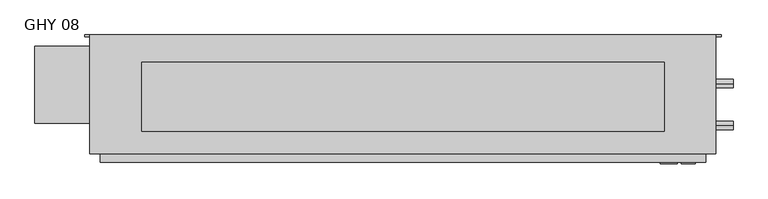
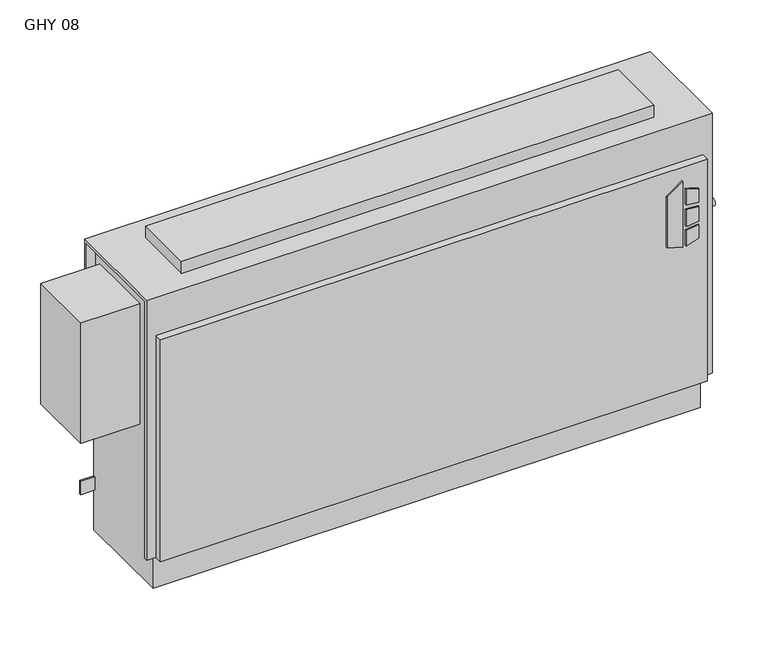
"""IFC4 building model written with IfcOpenShell, lengths in millimetres: proxy geometry, Vertical_Fan_Coil_Unit_-_GHY_-_IEC_-_2-Pipe_TS-FR_RH_2022 : GHY 08."""

from ifc_helpers import new_model, si_unit, point, frame, frame_2d, origin, place, context, project, spatial, polyline, circle_curve, trimmed, segment, composite_curve, outline, extrude, source, transform, mapped, element, save
from ifc_brep_helpers import plane_surface, revolved_surface, advanced_brep


def ghy_08_5180b133(model_context):
    return source(origin(), model_context, "Body", "SolidModel", [
        extrude(outline(polyline([(391.6086829, 627.1368862), (381.6606126, 659.3102728), (523.831537, 659.3102728), (500.8095309, 627.1368862), (391.6086829, 627.1368862)])), frame((0.0, 6.35, 0.0), z_axis=(0.0, 1.0, 0.0), x_axis=(0.0, 0.0, 1.0)), (0.0, 0.0, 1.0), 3.175),
        extrude(outline(polyline([(470.6079683, 666.0686058), (467.4055757, 692.15), (496.6344168, 692.15), (504.6988318, 666.0686058), (470.6079683, 666.0686058)])), frame((0.0, 6.35, 0.0), z_axis=(0.0, 1.0, 0.0), x_axis=(0.0, 0.0, 1.0)), (0.0, 0.0, 1.0), 3.175),
        extrude(outline(polyline([(418.7444414, 692.15), (415.0789404, 666.0686058), (381.6606126, 666.0686058), (390.2948498, 692.15), (418.7444414, 692.15)])), frame((0.0, 6.35, 0.0), z_axis=(0.0, 1.0, 0.0), x_axis=(0.0, 0.0, 1.0)), (0.0, 0.0, 1.0), 3.175),
        extrude(outline(polyline([(458.0596028, 692.15), (460.3414292, 666.0686058), (424.4038806, 666.0686058), (427.1451456, 692.15), (458.0596028, 692.15)])), frame((0.0, 6.35, 0.0), z_axis=(0.0, 1.0, 0.0), x_axis=(0.0, 0.0, 1.0)), (0.0, 0.0, 1.0), 3.175),
        extrude(outline(polyline([(635.0, 193.675), (635.0, 66.675), (-330.2, 66.675), (-330.2, 193.675), (635.0, 193.675)])), frame((0.0, 0.0, 635.0), z_axis=(0.0, 0.0, 1.0), x_axis=(1.0, 0.0, 0.0)), (0.0, 0.0, 1.0), 25.4),
        extrude(outline(composite_curve([segment(trimmed(circle_curve(frame_2d((77.597, 401.574)), 7.9375), [point((77.597, 393.6365))], [point((77.597, 409.5115))], False, "CARTESIAN"), True, "CONTINUOUS"), segment(trimmed(circle_curve(frame_2d((77.597, 401.574)), 7.9375), [point((77.597, 409.5115))], [point((77.597, 393.6365))], False, "CARTESIAN"), True, "CONTINUOUS")], self_intersect=False)), frame((711.2, 0.0, 0.0), z_axis=(1.0, 0.0, 0.0), x_axis=(0.0, 1.0, 0.0)), (0.0, 0.0, 1.0), 50.8),
        extrude(outline(composite_curve([segment(trimmed(circle_curve(frame_2d((154.559, 540.512)), 7.9375), [point((154.559, 532.5745))], [point((154.559, 548.4495))], False, "CARTESIAN"), True, "CONTINUOUS"), segment(trimmed(circle_curve(frame_2d((154.559, 540.512)), 7.9375), [point((154.559, 548.4495))], [point((154.559, 532.5745))], False, "CARTESIAN"), True, "CONTINUOUS")], self_intersect=False)), frame((711.2, 0.0, 0.0), z_axis=(1.0, 0.0, 0.0), x_axis=(0.0, 1.0, 0.0)), (0.0, 0.0, 1.0), 50.8),
        extrude(outline(polyline([(-527.05, 223.266), (-406.4, 223.266), (-406.4, 81.534), (-527.05, 81.534), (-527.05, 223.266)])), frame((0.0, 0.0, 327.025), z_axis=(0.0, 0.0, 1.0), x_axis=(1.0, 0.0, 0.0)), (0.0, 0.0, 1.0), 260.35),
        advanced_brep(
        [(730.25, 244.475, 635.0), (-425.45, 244.475, 635.0), (-425.45, 25.4, 635.0), (730.25, 25.4, 635.0), (-406.4, 244.475, 0.0), (711.2, 244.475, 0.0), (711.2, 34.925, 0.0), (-406.4, 34.925, 0.0), (730.25, 244.475, 558.8), (711.2, 244.475, 558.8), (711.2, 244.475, 414.3375), (739.775, 244.475, 414.3375), (739.775, 244.475, 385.7625), (711.2, 244.475, 385.7625), (711.2, 244.475, 287.3375), (739.775, 244.475, 287.3375), (739.775, 244.475, 258.7625), (711.2, 244.475, 258.7625), (711.2, 244.475, 141.2875), (739.775, 244.475, 141.2875), (739.775, 244.475, 112.7125), (711.2, 244.475, 112.7125), (-406.4, 244.475, 87.3125), (-434.975, 244.475, 87.3125), (-434.975, 244.475, 115.8875), (-406.4, 244.475, 115.8875), (-406.4, 244.475, 258.7625), (-434.975, 244.475, 258.7625), (-434.975, 244.475, 287.3375), (-406.4, 244.475, 287.3375), (-406.4, 244.475, 385.7625), (-434.975, 244.475, 385.7625), (-434.975, 244.475, 414.3375), (-406.4, 244.475, 414.3375), (-406.4, 244.475, 558.8), (-425.45, 244.475, 558.8), (729.4626, 244.475, 127.0), (718.3374, 244.475, 127.0), (729.4626, 244.475, 273.05), (718.3374, 244.475, 273.05), (-413.5374, 244.475, 273.05), (-424.6626, 244.475, 273.05), (729.4626, 244.475, 400.05), (718.3374, 244.475, 400.05), (-413.5374, 244.475, 400.05), (-424.6626, 244.475, 400.05), (-425.45, 238.125, 558.8), (-425.45, 238.125, 628.65), (-425.45, 31.75, 628.65), (-425.45, 31.75, 73.025), (-425.45, 25.4, 73.025), (711.2, 9.525, 552.45), (-406.4, 9.525, 552.45), (-406.4, 9.525, 73.025), (711.2, 9.525, 73.025), (730.25, 25.4, 73.025), (730.25, 31.75, 73.025), (730.25, 31.75, 628.65), (730.25, 238.125, 628.65), (730.25, 238.125, 558.8), (-406.4, 25.4, 73.025), (-406.4, 25.4, 552.45), (711.2, 25.4, 552.45), (711.2, 25.4, 73.025), (-406.4, 31.75, 73.025), (-406.4, 34.925, 73.025), (711.2, 34.925, 73.025), (711.2, 31.75, 73.025), (711.2, 241.3, 112.7125), (711.2, 241.3, 141.2875), (711.2, 241.3, 258.7625), (711.2, 241.3, 287.3375), (711.2, 241.3, 385.7625), (711.2, 241.3, 414.3375), (711.2, 238.125, 558.8), (711.2, 238.125, 628.65), (711.2, 31.75, 628.65), (-406.4, 31.75, 628.65), (-406.4, 238.125, 628.65), (-406.4, 238.125, 558.8), (-406.4, 241.3, 414.3375), (-406.4, 241.3, 385.7625), (-406.4, 241.3, 287.3375), (-406.4, 241.3, 258.7625), (-406.4, 241.3, 115.8875), (-406.4, 241.3, 87.3125), (739.775, 241.3, 112.7125), (739.775, 241.3, 141.2875), (718.3374, 241.3, 127.0), (729.4626, 241.3, 127.0), (739.775, 241.3, 258.7625), (739.775, 241.3, 287.3375), (718.3374, 241.3, 273.05), (729.4626, 241.3, 273.05), (739.775, 241.3, 385.7625), (739.775, 241.3, 414.3375), (718.3374, 241.3, 400.05), (729.4626, 241.3, 400.05), (-434.975, 241.3, 115.8875), (-434.975, 241.3, 87.3125), (-434.975, 241.3, 287.3375), (-434.975, 241.3, 258.7625), (-424.6626, 241.3, 273.05), (-413.5374, 241.3, 273.05), (-434.975, 241.3, 414.3375), (-434.975, 241.3, 385.7625), (-424.6626, 241.3, 400.05), (-413.5374, 241.3, 400.05)],
        [
            (0, 1),
            (1, 2),
            (2, 3),
            (3, 0),
            (4, 5),
            (5, 6),
            (6, 7),
            (7, 4),
            (0, 8),
            (8, 9),
            (9, 10),
            (10, 11),
            (11, 12),
            (12, 13),
            (13, 14),
            (14, 15),
            (15, 16),
            (16, 17),
            (17, 18),
            (18, 19),
            (19, 20),
            (20, 21),
            (21, 5),
            (4, 22),
            (22, 23),
            (23, 24),
            (24, 25),
            (25, 26),
            (26, 27),
            (27, 28),
            (28, 29),
            (29, 30),
            (30, 31),
            (31, 32),
            (32, 33),
            (33, 34),
            (34, 35),
            (35, 1),
            (36, 37, circle_curve(frame((723.9, 244.475, 127.0), z_axis=(0.0, -1.0, 0.0), x_axis=(-1.0, 0.0, 0.0)), 5.5626)),
            (37, 36, circle_curve(frame((723.9, 244.475, 127.0), z_axis=(0.0, -1.0, 0.0), x_axis=(-1.0, 0.0, 0.0)), 5.5626)),
            (38, 39, circle_curve(frame((723.9, 244.475, 273.05), z_axis=(0.0, -1.0, 0.0), x_axis=(-1.0, 0.0, 0.0)), 5.5626)),
            (39, 38, circle_curve(frame((723.9, 244.475, 273.05), z_axis=(0.0, -1.0, 0.0), x_axis=(-1.0, 0.0, 0.0)), 5.5626)),
            (40, 41, circle_curve(frame((-419.1, 244.475, 273.05), z_axis=(0.0, -1.0, 0.0), x_axis=(-1.0, 0.0, 0.0)), 5.5626)),
            (41, 40, circle_curve(frame((-419.1, 244.475, 273.05), z_axis=(0.0, -1.0, 0.0), x_axis=(-1.0, 0.0, 0.0)), 5.5626)),
            (42, 43, circle_curve(frame((723.9, 244.475, 400.05), z_axis=(0.0, -1.0, 0.0), x_axis=(-1.0, 0.0, 0.0)), 5.5626)),
            (43, 42, circle_curve(frame((723.9, 244.475, 400.05), z_axis=(0.0, -1.0, 0.0), x_axis=(-1.0, 0.0, 0.0)), 5.5626)),
            (44, 45, circle_curve(frame((-419.1, 244.475, 400.05), z_axis=(0.0, -1.0, 0.0), x_axis=(-1.0, 0.0, 0.0)), 5.5626)),
            (45, 44, circle_curve(frame((-419.1, 244.475, 400.05), z_axis=(0.0, -1.0, 0.0), x_axis=(-1.0, 0.0, 0.0)), 5.5626)),
            (35, 46),
            (46, 47),
            (47, 48),
            (48, 49),
            (49, 50),
            (50, 2),
            (51, 52),
            (52, 53),
            (53, 54),
            (54, 51),
            (3, 55),
            (55, 56),
            (56, 57),
            (57, 58),
            (58, 59),
            (59, 8),
            (50, 60),
            (60, 61),
            (61, 62),
            (62, 63),
            (63, 55),
            (51, 62),
            (61, 52),
            (53, 60),
            (49, 64),
            (64, 65),
            (65, 66),
            (66, 67),
            (67, 56),
            (63, 54),
            (6, 66),
            (65, 7),
            (21, 68),
            (68, 69),
            (69, 18),
            (17, 70),
            (70, 71),
            (71, 14),
            (13, 72),
            (72, 73),
            (73, 10),
            (9, 74),
            (74, 75),
            (75, 76),
            (76, 67),
            (64, 77),
            (77, 78),
            (78, 79),
            (79, 34),
            (33, 80),
            (80, 81),
            (81, 30),
            (29, 82),
            (82, 83),
            (83, 26),
            (25, 84),
            (84, 85),
            (85, 22),
            (74, 59),
            (58, 75),
            (76, 57),
            (48, 77),
            (79, 46),
            (78, 47),
            (68, 86),
            (86, 87),
            (87, 69),
            (88, 89, circle_curve(frame((723.9, 241.3, 127.0), z_axis=(0.0, 1.0, 0.0), x_axis=(-1.0, 0.0, 0.0)), 5.5626)),
            (89, 88, circle_curve(frame((723.9, 241.3, 127.0), z_axis=(0.0, 1.0, 0.0), x_axis=(-1.0, 0.0, 0.0)), 5.5626)),
            (90, 91),
            (91, 71),
            (70, 90),
            (92, 93, circle_curve(frame((723.9, 241.3, 273.05), z_axis=(0.0, 1.0, 0.0), x_axis=(-1.0, 0.0, 0.0)), 5.5626)),
            (93, 92, circle_curve(frame((723.9, 241.3, 273.05), z_axis=(0.0, 1.0, 0.0), x_axis=(-1.0, 0.0, 0.0)), 5.5626)),
            (94, 95),
            (95, 73),
            (72, 94),
            (96, 97, circle_curve(frame((723.9, 241.3, 400.05), z_axis=(0.0, 1.0, 0.0), x_axis=(-1.0, 0.0, 0.0)), 5.5626)),
            (97, 96, circle_curve(frame((723.9, 241.3, 400.05), z_axis=(0.0, 1.0, 0.0), x_axis=(-1.0, 0.0, 0.0)), 5.5626)),
            (98, 99),
            (99, 85),
            (84, 98),
            (82, 100),
            (100, 101),
            (101, 83),
            (102, 103, circle_curve(frame((-419.1, 241.3, 273.05), z_axis=(0.0, 1.0, 0.0), x_axis=(-1.0, 0.0, 0.0)), 5.5626)),
            (103, 102, circle_curve(frame((-419.1, 241.3, 273.05), z_axis=(0.0, 1.0, 0.0), x_axis=(-1.0, 0.0, 0.0)), 5.5626)),
            (104, 105),
            (105, 81),
            (80, 104),
            (106, 107, circle_curve(frame((-419.1, 241.3, 400.05), z_axis=(0.0, 1.0, 0.0), x_axis=(-1.0, 0.0, 0.0)), 5.5626)),
            (107, 106, circle_curve(frame((-419.1, 241.3, 400.05), z_axis=(0.0, 1.0, 0.0), x_axis=(-1.0, 0.0, 0.0)), 5.5626)),
            (87, 19),
            (86, 20),
            (16, 90),
            (91, 15),
            (12, 94),
            (95, 11),
            (24, 98),
            (99, 23),
            (101, 27),
            (100, 28),
            (32, 104),
            (105, 31),
            (88, 37),
            (36, 89),
            (92, 39),
            (38, 93),
            (102, 41),
            (40, 103),
            (96, 43),
            (42, 97),
            (106, 45),
            (44, 107),
        ],
        [
            plane_surface(frame((-425.45, 244.475, 635.0), z_axis=(0.0, 0.0, 1.0), x_axis=(-1.0, 0.0, 0.0))),
            plane_surface(frame((-425.45, 244.475, 0.0), z_axis=(0.0, 0.0, -1.0), x_axis=(1.0, 0.0, 0.0))),
            plane_surface(frame((730.25, 244.475, 635.0), z_axis=(0.0, 1.0, 0.0), x_axis=(0.0, 0.0, -1.0))),
            plane_surface(frame((-425.45, 244.475, 635.0), z_axis=(-1.0, 0.0, 0.0), x_axis=(0.0, 0.0, -1.0))),
            plane_surface(frame((-425.45, 9.525, 635.0), z_axis=(0.0, -1.0, 0.0), x_axis=(0.0, 0.0, -1.0))),
            plane_surface(frame((730.25, 9.525, 635.0), z_axis=(1.0, 0.0, 0.0), x_axis=(0.0, 0.0, -1.0))),
            plane_surface(frame((-704.85, 25.4, 635.0), z_axis=(0.0, -1.0, 0.0), x_axis=(1.0, 0.0, 0.0))),
            plane_surface(frame((-704.85, 25.4, 552.45), z_axis=(0.0, 0.0, 1.0), x_axis=(1.0, 0.0, 0.0))),
            plane_surface(frame((-425.45, 9.525, 73.025), z_axis=(0.0, 0.0, -1.0), x_axis=(1.0, 0.0, 0.0))),
            plane_surface(frame((-425.45, 34.925, 73.025), z_axis=(0.0, -1.0, 0.0), x_axis=(1.0, 0.0, 0.0))),
            plane_surface(frame((711.2, 25.4, 73.025), z_axis=(1.0, 0.0, 0.0), x_axis=(0.0, -1.0, 0.0))),
            plane_surface(frame((-406.4, 25.4, 552.45), z_axis=(-1.0, 0.0, 0.0), x_axis=(0.0, -1.0, 0.0))),
            plane_surface(frame((711.2, 244.475, 0.0), z_axis=(1.0, 0.0, 0.0), x_axis=(0.0, -1.0, 0.0))),
            plane_surface(frame((-406.4, 244.475, 73.025), z_axis=(-1.0, 0.0, 0.0), x_axis=(0.0, -1.0, 0.0))),
            plane_surface(frame((711.2, 238.125, 628.65), z_axis=(0.0, -1.0, 0.0), x_axis=(1.0, 0.0, 0.0))),
            plane_surface(frame((711.2, 238.125, 558.8), z_axis=(0.0, 0.0, -1.0), x_axis=(1.0, 0.0, 0.0))),
            plane_surface(frame((711.2, 31.75, 73.025), z_axis=(0.0, 1.0, 0.0), x_axis=(1.0, 0.0, 0.0))),
            plane_surface(frame((711.2, 31.75, 628.65), z_axis=(0.0, 0.0, -1.0), x_axis=(1.0, 0.0, 0.0))),
            plane_surface(frame((-406.4, 31.75, 628.65), z_axis=(0.0, 1.0, 0.0), x_axis=(-1.0, 0.0, 0.0))),
            plane_surface(frame((-406.4, 244.475, 558.8), z_axis=(0.0, 0.0, -1.0), x_axis=(-1.0, 0.0, 0.0))),
            plane_surface(frame((-406.4, 238.125, 558.8), z_axis=(0.0, -1.0, 0.0), x_axis=(-1.0, 0.0, 0.0))),
            plane_surface(frame((-406.4, 238.125, 628.65), z_axis=(0.0, 0.0, -1.0), x_axis=(-1.0, 0.0, 0.0))),
            plane_surface(frame((739.775, 241.3, 141.2875), z_axis=(0.0, -1.0, 0.0), x_axis=(-1.0, 0.0, 0.0))),
            plane_surface(frame((711.2, 244.475, 141.2875), z_axis=(0.0, 0.0, 1.0), x_axis=(0.0, -1.0, 0.0))),
            plane_surface(frame((739.775, 244.475, 141.2875), z_axis=(1.0, 0.0, 0.0), x_axis=(0.0, -1.0, 0.0))),
            plane_surface(frame((739.775, 244.475, 112.7125), z_axis=(0.0, 0.0, -1.0), x_axis=(0.0, -1.0, 0.0))),
            plane_surface(frame((739.775, 244.475, 258.7625), z_axis=(0.0, 0.0, -1.0), x_axis=(0.0, -1.0, 0.0))),
            plane_surface(frame((711.2, 244.475, 287.3375), z_axis=(0.0, 0.0, 1.0), x_axis=(0.0, -1.0, 0.0))),
            plane_surface(frame((739.775, 244.475, 287.3375), z_axis=(1.0, 0.0, 0.0), x_axis=(0.0, -1.0, 0.0))),
            plane_surface(frame((739.775, 244.475, 385.7625), z_axis=(0.0, 0.0, -1.0), x_axis=(0.0, -1.0, 0.0))),
            plane_surface(frame((711.2, 244.475, 414.3375), z_axis=(0.0, 0.0, 1.0), x_axis=(0.0, -1.0, 0.0))),
            plane_surface(frame((739.775, 244.475, 414.3375), z_axis=(1.0, 0.0, 0.0), x_axis=(0.0, -1.0, 0.0))),
            plane_surface(frame((-434.975, 244.475, 115.8875), z_axis=(0.0, 0.0, 1.0), x_axis=(0.0, -1.0, 0.0))),
            plane_surface(frame((-406.4, 244.475, 87.3125), z_axis=(0.0, 0.0, -1.0), x_axis=(0.0, -1.0, 0.0))),
            plane_surface(frame((-434.975, 244.475, 87.3125), z_axis=(-1.0, 0.0, 0.0), x_axis=(0.0, -1.0, 0.0))),
            plane_surface(frame((-406.4, 244.475, 258.7625), z_axis=(0.0, 0.0, -1.0), x_axis=(0.0, -1.0, 0.0))),
            plane_surface(frame((-434.975, 244.475, 258.7625), z_axis=(-1.0, 0.0, 0.0), x_axis=(0.0, -1.0, 0.0))),
            plane_surface(frame((-434.975, 244.475, 287.3375), z_axis=(0.0, 0.0, 1.0), x_axis=(0.0, -1.0, 0.0))),
            plane_surface(frame((-434.975, 244.475, 414.3375), z_axis=(0.0, 0.0, 1.0), x_axis=(0.0, -1.0, 0.0))),
            plane_surface(frame((-406.4, 244.475, 385.7625), z_axis=(0.0, 0.0, -1.0), x_axis=(0.0, -1.0, 0.0))),
            plane_surface(frame((-434.975, 244.475, 385.7625), z_axis=(-1.0, 0.0, 0.0), x_axis=(0.0, -1.0, 0.0))),
            revolved_surface(polyline([(718.3374, 241.3, 127.0), (718.3374, 244.475, 127.0)]), (723.9, 244.475, 127.0), (0.0, -1.0, 0.0)),
            revolved_surface(polyline([(718.3374, 241.3, 273.05), (718.3374, 244.475, 273.05)]), (723.9, 244.475, 273.05), (0.0, -1.0, 0.0)),
            revolved_surface(polyline([(-424.6626, 241.3, 273.05), (-424.6626, 244.475, 273.05)]), (-419.1, 244.475, 273.05), (0.0, -1.0, 0.0)),
            revolved_surface(polyline([(718.3374, 241.3, 400.05), (718.3374, 244.475, 400.05)]), (723.9, 244.475, 400.05), (0.0, -1.0, 0.0)),
            revolved_surface(polyline([(-424.6626, 241.3, 400.05), (-424.6626, 244.475, 400.05)]), (-419.1, 244.475, 400.05), (0.0, -1.0, 0.0)),
        ],
        [
            (0, [[1, 2, 3, 4]]),
            (1, [[5, 6, 7, 8]]),
            (2, [[-1, 9, 10, 11, 12, 13, 14, 15, 16, 17, 18, 19, 20, 21, 22, 23, -5, 24, 25, 26, 27, 28, 29, 30, 31, 32, 33, 34, 35, 36, 37, 38], [39, 40], [41, 42], [43, 44], [45, 46], [47, 48]]),
            (3, [[-2, -38, 49, 50, 51, 52, 53, 54]]),
            (4, [[55, 56, 57, 58]]),
            (5, [[-4, 59, 60, 61, 62, 63, 64, -9]]),
            (6, [[-3, -54, 65, 66, 67, 68, 69, -59]]),
            (7, [[-55, 70, -67, 71]]),
            (8, [[-57, 72, -65, -53, 73, 74, 75, 76, 77, -60, -69, 78]]),
            (9, [[-7, 79, -75, 80]]),
            (10, [[-68, -70, -58, -78]]),
            (11, [[-66, -72, -56, -71]]),
            (12, [[-6, -23, 81, 82, 83, -19, 84, 85, 86, -15, 87, 88, 89, -11, 90, 91, 92, 93, -76, -79]]),
            (13, [[-8, -80, -74, 94, 95, 96, 97, -36, 98, 99, 100, -32, 101, 102, 103, -28, 104, 105, 106, -24]]),
            (14, [[-91, 107, -63, 108]]),
            (15, [[-90, -10, -64, -107]]),
            (16, [[-93, 109, -61, -77]]),
            (17, [[-92, -108, -62, -109]]),
            (18, [[-94, -73, -52, 110]]),
            (19, [[-97, 111, -49, -37]]),
            (20, [[-96, 112, -50, -111]]),
            (21, [[-95, -110, -51, -112]]),
            (22, [[113, 114, 115, -82], [116, 117]]),
            (22, [[118, 119, -85, 120], [121, 122]]),
            (22, [[123, 124, -88, 125], [126, 127]]),
            (22, [[128, 129, -105, 130]]),
            (22, [[131, 132, 133, -102], [134, 135]]),
            (22, [[136, 137, -99, 138], [139, 140]]),
            (23, [[-115, 141, -20, -83]]),
            (24, [[-114, 142, -21, -141]]),
            (25, [[-113, -81, -22, -142]]),
            (26, [[-120, -84, -18, 143]]),
            (27, [[-119, 144, -16, -86]]),
            (28, [[-118, -143, -17, -144]]),
            (29, [[-125, -87, -14, 145]]),
            (30, [[-124, 146, -12, -89]]),
            (31, [[-123, -145, -13, -146]]),
            (32, [[-130, -104, -27, 147]]),
            (33, [[-129, 148, -25, -106]]),
            (34, [[-128, -147, -26, -148]]),
            (35, [[-133, 149, -29, -103]]),
            (36, [[-132, 150, -30, -149]]),
            (37, [[-131, -101, -31, -150]]),
            (38, [[-138, -98, -35, 151]]),
            (39, [[-137, 152, -33, -100]]),
            (40, [[-136, -151, -34, -152]]),
            (41, [[153, -39, 154, -116]]),
            (41, [[-153, -117, -154, -40]]),
            (42, [[155, -41, 156, -121]]),
            (42, [[-155, -122, -156, -42]]),
            (43, [[157, -43, 158, -134]]),
            (43, [[-157, -135, -158, -44]]),
            (44, [[159, -45, 160, -126]]),
            (44, [[-159, -127, -160, -46]]),
            (45, [[161, -47, 162, -139]]),
            (45, [[-161, -140, -162, -48]]),
        ],
    ),
    ])


if __name__ == "__main__":
    model = new_model("IFC4")
    model_context = context("Model", 3, world=origin())
    ifc_project = project(units=[si_unit("LENGTHUNIT", "METRE", prefix="MILLI")], contexts=[model_context])
    site = spatial("IfcSite", under=ifc_project)
    building = spatial("IfcBuilding", under=site)
    placement = place(None, origin())
    ghy_08_shape = ghy_08_5180b133(model_context)
    element("IfcBuildingElementProxy", 1, Name="Vertical_Fan_Coil_Unit_-_GHY_-_IEC_-_2-Pipe_TS-FR_RH_2022 : GHY 08", ObjectType="Vertical_Fan_Coil_Unit_-_GHY_-_IEC_-_2-Pipe_TS-FR_RH_2022 : GHY 08", at=placement, inside=building, context=model_context, shape_type="MappedRepresentation", body=[
        mapped(ghy_08_shape, transform((0.0, 0.0, 0.0), x_axis=(1.0, 0.0, 0.0), y_axis=(0.0, 1.0, 0.0), z_axis=(0.0, 0.0, 1.0))),
    ])
    save(model, "model.ifc")
